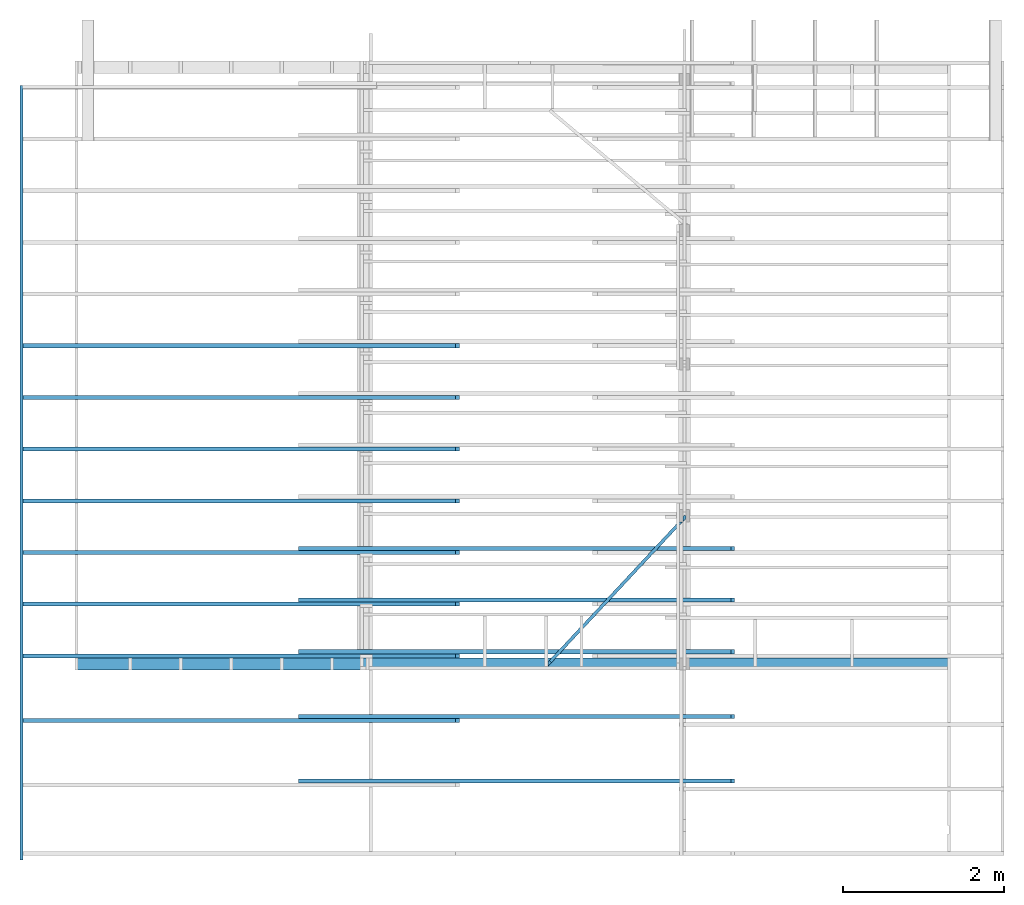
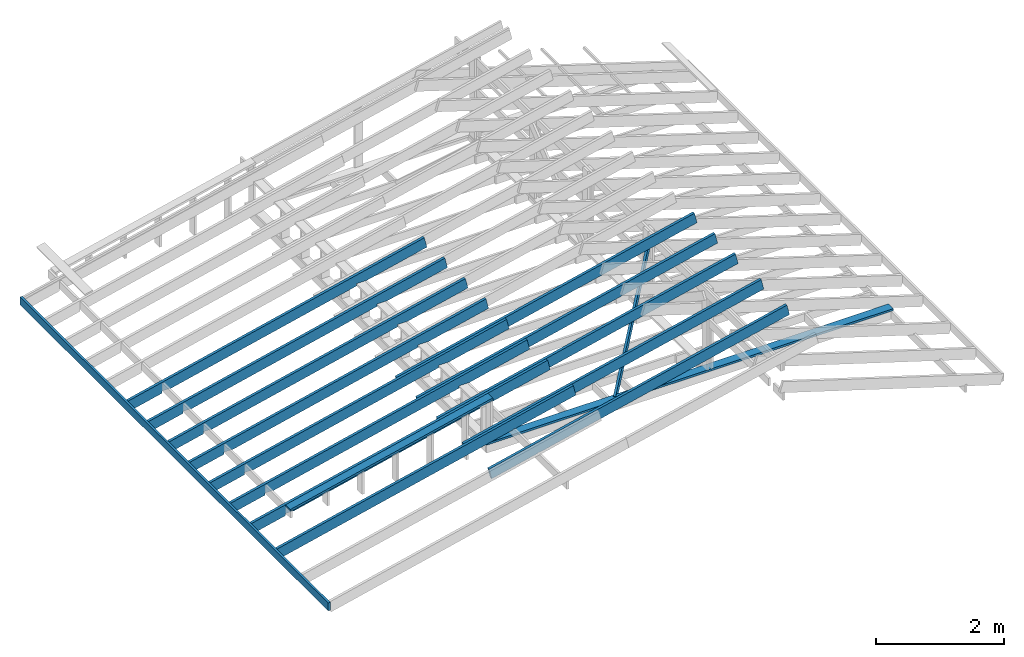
# One storey, part 2 of 6: 17 beams.
"""IFC4 building model written with IfcOpenShell, lengths in millimetres."""

from ifc_helpers import new_model, si_unit, derived_unit, frame, origin_with_axes, place, context, subcontext, project, spatial, polygons, source, transform, mapped, material, type_object, element, save


model = new_model("IFC4")

# Units and contexts
model_context = context("Model", 3, precision=1e-06, world=origin_with_axes())
body_context = subcontext(model_context, "Body", "Model", "MODEL_VIEW")
ifc_project = project(units=[si_unit("LENGTHUNIT", "METRE", prefix="MILLI"), si_unit("AREAUNIT", "SQUARE_METRE"), si_unit("VOLUMEUNIT", "CUBIC_METRE"), si_unit("MASSUNIT", "GRAM", prefix="KILO"), si_unit("ELECTRICVOLTAGEUNIT", "VOLT", prefix="KILO"), si_unit("THERMODYNAMICTEMPERATUREUNIT", "DEGREE_CELSIUS"), si_unit("PRESSUREUNIT", "PASCAL", prefix="MEGA"), si_unit("PLANEANGLEUNIT", "RADIAN"), derived_unit("THERMALCONDUCTANCEUNIT", [(si_unit("POWERUNIT", "WATT"), 1), (si_unit("LENGTHUNIT", "METRE"), -1), (si_unit("THERMODYNAMICTEMPERATUREUNIT", "KELVIN"), -1)]), derived_unit("MASSDENSITYUNIT", [(si_unit("MASSUNIT", "GRAM", prefix="KILO"), 1), (si_unit("VOLUMEUNIT", "CUBIC_METRE"), -1)])], contexts=[model_context])

# Site, building, storey
site_placement = place(None, origin_with_axes())
site = spatial("IfcSite", under=ifc_project, at=site_placement, CompositionType="ELEMENT")
building_placement = place(site_placement, origin_with_axes())
building = spatial("IfcBuilding", under=site, at=building_placement, CompositionType="ELEMENT")
storey_placement = place(building_placement, frame((0.0, 0.0, 2620.0), z_axis=(0.0, 0.0, 1.0), x_axis=(1.0, 0.0, 0.0)))
storey = spatial("IfcBuildingStorey", under=building, at=storey_placement, Name="Кровля", CompositionType="ELEMENT", Elevation=2620.0)

# Beams
ifc_material_1 = material(Name="Древесина конструктивная")
beam_type_1 = type_object("IfcBeamType", Name="Доска 40х150", PredefinedType="BEAM")
shared_shape_1 = source(origin_with_axes(), body_context, "Body", "Tessellation", [
    polygons([(4.121e-12, 38.405177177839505, -3997.5), (0.0, 40.0, -3997.499999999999), (0.0, 40.0, -4037.5), (4.121e-12, 38.405177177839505, -4037.5), (4.121e-12, 38.405177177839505, -4077.5), (0.0, 40.0, -4077.4999999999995), (0.0, 40.0, -7312.500000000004), (0.0, 0.0, -7312.500000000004), (0.0, 0.0, 0.0), (0.0, 40.0, 0.0), (0.0, 40.0, -3957.5), (4.121e-12, 38.405177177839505, -3957.5), (150.0, 40.0, -3997.5), (150.0, 40.0, -4037.5), (150.0, 40.0, -3957.5), (150.0, 40.0, 0.0), (150.0, 40.0, -4077.4999999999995), (150.0, 40.0, -7312.500000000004), (150.00000000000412, 38.405177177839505, -3997.5), (150.00000000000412, 38.405177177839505, -3957.5), (150.0, 0.0, 0.0), (150.0, 0.0, -7312.500000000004), (150.00000000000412, 38.405177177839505, -4077.5), (150.00000000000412, 38.405177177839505, -4037.5)], [[[1, 2, 3, 4, 5, 6, 7, 8, 9, 10, 11, 12]], [[2, 13, 14, 3]], [[15, 11, 10, 16]], [[6, 17, 18, 7]], [[13, 19, 20, 15, 16, 21, 22, 18, 17, 23, 24, 14]], [[24, 23, 5, 4]], [[23, 17, 6, 5]], [[14, 24, 4, 3]], [[20, 19, 1, 12]], [[15, 20, 12, 11]], [[19, 13, 2, 1]], [[8, 7, 18, 22]], [[21, 9, 8, 22]], [[9, 21, 16, 10]]], closed=True),
])
beam_1_placement = place(storey_placement, frame((3532.5, 149.99999999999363, 150.0), z_axis=(-1.0, 0.0, 0.0), x_axis=(0.0, -1.0, 0.0)))
element("IfcBeam", 1, at=beam_1_placement, inside=storey, type_object=beam_type_1, material=ifc_material_1, Name="Балка - Доска 40х150", context=body_context, shape_type="MappedRepresentation", body=[
    mapped(shared_shape_1, transform((0.0, 0.0, 0.0), x_axis=(1.0, 0.0, 0.0), y_axis=(0.0, 1.0, 0.0), z_axis=(0.0, 0.0, 1.0), scale=1.0)),
])
shared_shape_2 = source(origin_with_axes(), body_context, "Body", "Tessellation", [
    polygons([(-4.15e-12, -39.16629625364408, -3689.7578633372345), (-5e-15, -39.999999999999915, -3689.5637304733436), (-4e-15, -39.99999999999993, -3243.5802251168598), (-4.263e-12, -39.288554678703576, -3240.524922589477), (-4e-15, -39.99999999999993, -3240.3592583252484), (-2e-15, -39.99999999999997, -1347.5416834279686), (-4.69e-12, -32.85577650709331, -1316.8608096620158), (-2e-15, -39.99999999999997, -1315.1972348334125), (-1e-15, -39.999999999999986, -677.3141059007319), (-4.846e-12, -39.15236510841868, -673.6739371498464), (-1e-15, -39.999999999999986, -673.4765603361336), (0.0, -40.0, -31.755885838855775), (-4.093e-12, -31.81373772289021, -33.66210558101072), (0.0, -22.742192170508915, 5.295654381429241), (0.0, 0.0, 0.0), (0.0, 0.0, -3739.94809097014), (0.0, -40.000000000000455, -3739.94809097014), (-5e-15, -39.99999999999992, -3693.3382047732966), (150.0, -39.999999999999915, -3689.5637304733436), (149.99999999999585, -39.16629625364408, -3689.7578633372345), (150.0, -39.99999999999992, -3693.3382047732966), (150.0, -40.0, -3739.94809097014), (150.0, -4.55e-13, -3739.948090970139), (150.0, 0.0, 0.0), (150.0, -22.742192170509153, 5.295654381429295), (149.9999999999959, -31.81373772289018, -33.66210558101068), (150.0, -40.000000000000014, -31.75588583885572), (150.0, -39.99999999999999, -673.4765603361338), (149.99999999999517, -39.15236510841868, -673.6739371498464), (150.0, -39.99999999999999, -677.3141059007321), (150.0, -39.99999999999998, -1315.1972348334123), (149.9999999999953, -32.85577650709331, -1316.8608096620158), (150.0, -39.99999999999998, -1347.5416834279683), (150.0, -39.99999999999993, -3240.3592583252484), (149.99999999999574, -39.288554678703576, -3240.524922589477), (150.0, -39.99999999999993, -3243.5802251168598)], [[[1, 2, 3, 4, 5, 6, 7, 8, 9, 10, 11, 12, 13, 14, 15, 16, 17, 18]], [[19, 20, 21, 22, 23, 24, 25, 26, 27, 28, 29, 30, 31, 32, 33, 34, 35, 36]], [[2, 19, 36, 3]], [[21, 18, 17, 22]], [[27, 12, 11, 28]], [[30, 9, 8, 31]], [[33, 6, 5, 34]], [[14, 25, 24, 15]], [[3, 36, 35, 4]], [[34, 5, 4, 35]], [[6, 33, 32, 7]], [[31, 8, 7, 32]], [[9, 30, 29, 10]], [[28, 11, 10, 29]], [[25, 14, 13, 26]], [[12, 27, 26, 13]], [[18, 21, 20, 1]], [[19, 2, 1, 20]], [[16, 15, 24, 23]], [[17, 16, 23, 22]]], closed=True),
])
beam_2_placement = place(storey_placement, frame((-1.14e-13, 149.99999999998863, 165.35061583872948), z_axis=(-0.973943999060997, 0.0, -0.226788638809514), x_axis=(0.0, -1.0, 0.0)))
element("IfcBeam", 2, at=beam_2_placement, inside=storey, type_object=beam_type_1, material=ifc_material_1, Name="Балка - Доска 40х150", context=body_context, shape_type="MappedRepresentation", body=[
    mapped(shared_shape_2, transform((0.0, 0.0, 0.0), x_axis=(1.0, 0.0, 0.0), y_axis=(0.0, 1.0, 0.0), z_axis=(0.0, 0.0, 1.0), scale=1.0)),
])
ifc_material_2 = material(Name="Древесина оранж")
beam_type_2 = type_object("IfcBeamType", Name="Доска 50х200", PredefinedType="BEAM")
shared_shape_3 = source(origin_with_axes(), body_context, "Body", "Tessellation", [
    polygons([(50.00000000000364, 43.0898413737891, -707.6329538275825), (50.0, 2.06e-13, -892.682313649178), (50.0, 4.55e-13, -5499.999999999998), (50.0, 200.00000000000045, -5500.000000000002), (50.0, 200.00000000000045, 0.0), (50.0, 0.0, 0.0), (50.0, 2.08e-13, -716.3066353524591), (50.00000000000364, 4.132081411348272, -698.5614082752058), (-2e-15, -1.9e-14, -892.6823136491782), (3.638e-12, 43.0898413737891, -707.6329538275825), (3.638e-12, 4.132081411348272, -698.5614082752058), (-2e-15, -1.6e-14, -716.3066353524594), (0.0, 0.0, 0.0), (0.0, 200.00000000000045, 0.0), (0.0, 200.0000000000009, -5499.999999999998), (0.0, 0.0, -5500.0)], [[[1, 2, 3, 4, 5, 6, 7, 8]], [[9, 10, 11, 12, 13, 14, 15, 16]], [[2, 9, 16, 3]], [[12, 7, 6, 13]], [[11, 10, 1, 8]], [[7, 12, 11, 8]], [[9, 2, 1, 10]], [[3, 16, 15, 4]], [[14, 5, 4, 15]], [[6, 5, 14, 13]]], closed=True),
])
beam_3_placement = place(storey_placement, frame((2813.077417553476, 249.9999999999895, 615.0417672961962), z_axis=(-0.973943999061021, 0.0, -0.226788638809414), x_axis=(-0.226788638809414, 0.0, 0.973943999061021)))
element("IfcBeam", 3, at=beam_3_placement, inside=storey, type_object=beam_type_2, material=ifc_material_2, Name="Балка - Доска 50х200", context=body_context, shape_type="MappedRepresentation", body=[
    mapped(shared_shape_3, transform((0.0, 0.0, 0.0), x_axis=(0.0, -1.0, 0.0), y_axis=(1.0, 0.0, 0.0), z_axis=(0.0, 0.0, 1.0), scale=1.0)),
])
shared_shape_4 = source(origin_with_axes(), body_context, "Body", "Tessellation", [
    polygons([(0.0, -2.76e-13, -611.6640995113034), (-5.7e-14, 38.957759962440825, -620.7356450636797), (-5.7e-14, 4.939464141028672, -766.8272449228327), (0.0, -2.84e-13, -765.6770613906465), (0.0, -4.61e-13, -4216.306635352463), (-1.0914e-11, 4.132081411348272, -4198.561408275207), (-1.0914e-11, 43.0898413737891, -4207.632953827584), (0.0, -4.71e-13, -4392.682313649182), (0.0, -1.364e-12, -5500.000000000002), (0.0, 199.99999999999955, -5500.000000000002), (0.0, 199.99999999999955, 0.0), (0.0, 0.0, 0.0), (-50.000000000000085, 38.957759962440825, -620.7356450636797), (-50.0, -4.7e-14, -611.6640995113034), (-50.0, 0.0, 0.0), (-50.0, 199.99999999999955, 0.0), (-50.0, 199.9999999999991, -5500.000000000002), (-50.0, -4.55e-13, -5500.000000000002), (-50.0, -3.35e-13, -4392.682313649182), (-49.99999999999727, 43.0898413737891, -4207.632953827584), (-49.99999999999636, 4.132081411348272, -4198.561408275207), (-50.0, -3.21e-13, -4216.306635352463), (-50.0, -5.8e-14, -765.6770613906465), (-50.000000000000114, 4.939464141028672, -766.8272449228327)], [[[1, 2, 3, 4, 5, 6, 7, 8, 9, 10, 11, 12]], [[13, 14, 15, 16, 17, 18, 19, 20, 21, 22, 23, 24]], [[14, 1, 12, 15]], [[4, 23, 22, 5]], [[8, 19, 18, 9]], [[21, 20, 7, 6]], [[5, 22, 21, 6]], [[19, 8, 7, 20]], [[23, 4, 3, 24]], [[13, 24, 3, 2]], [[1, 14, 13, 2]], [[9, 18, 17, 10]], [[16, 11, 10, 17]], [[12, 11, 16, 15]]], closed=True),
])
beam_4_placement = place(storey_placement, frame((-595.7265791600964, 149.9999999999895, -178.7184685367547), z_axis=(-0.973943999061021, 0.0, -0.226788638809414), x_axis=(-0.226788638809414, 0.0, 0.973943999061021)))
element("IfcBeam", 4, at=beam_4_placement, inside=storey, type_object=beam_type_2, material=ifc_material_2, Name="Балка - Доска 50х200", context=body_context, shape_type="MappedRepresentation", body=[
    mapped(shared_shape_4, transform((0.0, 0.0, 0.0), x_axis=(0.0, -1.0, 0.0), y_axis=(1.0, 0.0, 0.0), z_axis=(0.0, 0.0, 1.0), scale=1.0)),
])
ifc_material_3 = material(Name="Древесина жел")
shared_shape_5 = source(origin_with_axes(), body_context, "Body", "Tessellation", [
    polygons([(39.99999999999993, -85.95135620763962, -8.8e-13), (4e-15, -5.45e-13, -6.8e-13), (2.6e-14, -117.52639279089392, -9.21e-13), (15.112551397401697, -150.0000000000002, -5.14e-13), (39.99999999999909, -150.00000000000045, 0.0), (-3.37e-13, -3.45e-13, -2832.285832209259), (39.9999999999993, -85.9513562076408, -2832.2858322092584), (39.99999999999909, -150.00000000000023, -2832.285832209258), (0.0, -150.00000000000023, -2832.2858322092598), (40.00000000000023, -56.44419671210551, -2734.2692071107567), (40.0, -21.780886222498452, -2714.3078718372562), (39.99999999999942, -2.4e-14, -2752.1308737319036), (39.99999999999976, -5.06e-13, -18.18291105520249), (39.99999999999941, -150.0000000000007, -104.56243593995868), (39.99999999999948, -21.404837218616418, -2795.1158479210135), (39.99999999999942, -150.0000000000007, -36.88327613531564), (-2.68e-13, 3.82e-13, -2752.130873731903), (29.2534652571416, 2.27e-13, -31.480739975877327), (-4.55e-13, -40.39606660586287, -2681.9821897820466), (-4.55e-13, -75.05937709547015, -2701.943525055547), (-1.54e-13, -150.00000000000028, -86.37952488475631), (-2.11e-13, -150.00000000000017, -18.7003650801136), (29.2534652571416, -150.00000000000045, -117.86026486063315)], [[[1, 2, 3, 4, 5]], [[6, 7, 8, 9]], [[10, 11, 12, 13, 14, 8, 7, 15]], [[16, 1, 5]], [[12, 17, 2, 18, 13]], [[19, 20, 6, 9, 21, 22, 3, 2, 17]], [[21, 16, 5, 4, 22]], [[14, 23, 21, 9, 8]], [[22, 4, 3]], [[21, 23, 18, 2]], [[23, 14, 13, 18]], [[16, 21, 2, 1]], [[19, 17, 12, 11]], [[15, 7, 6]], [[6, 20, 10, 15]], [[20, 19, 11, 10]]], closed=True),
])
beam_5_placement = place(storey_placement, frame((7530.0, 1834.9999999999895, 1563.4051771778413), z_axis=(0.591023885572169, 0.633763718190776, 0.499033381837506), x_axis=(-0.340349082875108, -0.364961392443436, 0.866582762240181)))
element("IfcBeam", 5, at=beam_5_placement, inside=storey, type_object=beam_type_1, material=ifc_material_3, Name="Балка - Доска 40х150", context=body_context, shape_type="MappedRepresentation", body=[
    mapped(shared_shape_5, transform((0.0, 0.0, 0.0), x_axis=(0.0, -1.0, 0.0), y_axis=(1.0, 0.0, 0.0), z_axis=(0.0, 0.0, 1.0), scale=1.0)),
])
shared_shape_6 = source(origin_with_axes(), body_context, "Body", "Tessellation", [
    polygons([(50.00000000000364, 43.089841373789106, -707.6329538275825), (50.0, 2.06e-13, -892.682313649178), (50.0, 4.55e-13, -5499.999999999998), (50.0, 200.00000000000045, -5500.000000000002), (50.0, 200.00000000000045, 0.0), (50.0, 0.0, 0.0), (50.0, 2.08e-13, -716.3066353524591), (50.00000000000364, 4.132081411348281, -698.5614082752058), (-2e-15, -1.9e-14, -892.6823136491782), (3.638e-12, 43.089841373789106, -707.6329538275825), (4.547e-12, 4.132081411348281, -698.5614082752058), (-2e-15, -1.6e-14, -716.3066353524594), (0.0, 0.0, 0.0), (0.0, 200.00000000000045, 0.0), (0.0, 200.0000000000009, -5499.999999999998), (0.0, 0.0, -5500.0)], [[[1, 2, 3, 4, 5, 6, 7, 8]], [[9, 10, 11, 12, 13, 14, 15, 16]], [[2, 9, 16, 3]], [[12, 7, 6, 13]], [[11, 10, 1, 8]], [[7, 12, 11, 8]], [[9, 2, 1, 10]], [[3, 16, 15, 4]], [[14, 5, 4, 15]], [[6, 5, 14, 13]]], closed=True),
])
beam_6_placement = place(storey_placement, frame((2813.077417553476, 889.9999999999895, 615.0417672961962), z_axis=(-0.973943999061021, 0.0, -0.226788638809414), x_axis=(-0.226788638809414, 0.0, 0.973943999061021)))
element("IfcBeam", 6, at=beam_6_placement, inside=storey, type_object=beam_type_2, material=ifc_material_2, Name="Балка - Доска 50х200", context=body_context, shape_type="MappedRepresentation", body=[
    mapped(shared_shape_6, transform((0.0, 0.0, 0.0), x_axis=(0.0, -1.0, 0.0), y_axis=(1.0, 0.0, 0.0), z_axis=(0.0, 0.0, 1.0), scale=1.0)),
])
shared_shape_7 = source(origin_with_axes(), body_context, "Body", "Tessellation", [
    polygons([(0.0, -2.76e-13, -611.6640995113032), (-4.55e-13, 38.957759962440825, -620.7356450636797), (-4.55e-13, 4.939464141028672, -766.8272449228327), (0.0, -2.84e-13, -765.6770613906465), (0.0, -4.61e-13, -4216.306635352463), (3.638e-12, 4.132081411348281, -4198.561408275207), (3.638e-12, 43.089841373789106, -4207.632953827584), (0.0, -4.71e-13, -4392.682313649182), (0.0, -1.364e-12, -5500.000000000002), (0.0, 199.99999999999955, -5500.000000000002), (0.0, 199.99999999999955, 0.0), (0.0, 0.0, 0.0), (-50.000000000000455, 38.957759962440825, -620.7356450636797), (-50.0, -4.7e-14, -611.6640995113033), (-50.0, 0.0, 0.0), (-50.0, 199.99999999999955, 0.0), (-50.0, 199.9999999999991, -5500.000000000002), (-50.0, -4.55e-13, -5500.000000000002), (-50.0, -3.35e-13, -4392.682313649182), (-49.99999999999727, 43.089841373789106, -4207.632953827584), (-49.99999999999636, 4.132081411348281, -4198.561408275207), (-50.0, -3.21e-13, -4216.306635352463), (-50.0, -5.8e-14, -765.6770613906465), (-50.000000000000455, 4.939464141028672, -766.8272449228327)], [[[1, 2, 3, 4, 5, 6, 7, 8, 9, 10, 11, 12]], [[13, 14, 15, 16, 17, 18, 19, 20, 21, 22, 23, 24]], [[14, 1, 12, 15]], [[4, 23, 22, 5]], [[8, 19, 18, 9]], [[21, 20, 7, 6]], [[5, 22, 21, 6]], [[19, 8, 7, 20]], [[23, 4, 3, 24]], [[13, 24, 3, 2]], [[1, 14, 13, 2]], [[9, 18, 17, 10]], [[16, 11, 10, 17]], [[12, 11, 16, 15]]], closed=True),
])
beam_7_placement = place(storey_placement, frame((-595.7265791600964, 789.9999999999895, -178.7184685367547), z_axis=(-0.973943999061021, 0.0, -0.226788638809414), x_axis=(-0.226788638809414, 0.0, 0.973943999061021)))
element("IfcBeam", 7, at=beam_7_placement, inside=storey, type_object=beam_type_2, material=ifc_material_2, Name="Балка - Доска 50х200", context=body_context, shape_type="MappedRepresentation", body=[
    mapped(shared_shape_7, transform((0.0, 0.0, 0.0), x_axis=(0.0, -1.0, 0.0), y_axis=(1.0, 0.0, 0.0), z_axis=(0.0, 0.0, 1.0), scale=1.0)),
])
shared_shape_8 = source(origin_with_axes(), body_context, "Body", "Tessellation", [
    polygons([(50.00000000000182, 43.089841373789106, -707.6329538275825), (50.0, 2.06e-13, -892.682313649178), (50.0, 4.55e-13, -5499.999999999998), (50.0, 200.00000000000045, -5500.000000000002), (50.0, 200.00000000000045, 0.0), (50.0, 0.0, 0.0), (50.0, 2.08e-13, -716.3066353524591), (50.00000000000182, 4.132081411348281, -698.5614082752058), (-2e-15, -1.9e-14, -892.6823136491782), (1.819e-12, 43.089841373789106, -707.6329538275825), (2.728e-12, 4.132081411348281, -698.5614082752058), (-2e-15, -1.6e-14, -716.3066353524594), (0.0, 0.0, 0.0), (0.0, 200.00000000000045, 0.0), (0.0, 200.0000000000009, -5499.999999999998), (0.0, 0.0, -5500.0)], [[[1, 2, 3, 4, 5, 6, 7, 8]], [[9, 10, 11, 12, 13, 14, 15, 16]], [[2, 9, 16, 3]], [[12, 7, 6, 13]], [[11, 10, 1, 8]], [[7, 12, 11, 8]], [[9, 2, 1, 10]], [[3, 16, 15, 4]], [[14, 5, 4, 15]], [[6, 5, 14, 13]]], closed=True),
])
beam_8_placement = place(storey_placement, frame((2813.077417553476, 1529.9999999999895, 615.0417672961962), z_axis=(-0.973943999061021, 0.0, -0.226788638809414), x_axis=(-0.226788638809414, 0.0, 0.973943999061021)))
element("IfcBeam", 8, at=beam_8_placement, inside=storey, type_object=beam_type_2, material=ifc_material_2, Name="Балка - Доска 50х200", context=body_context, shape_type="MappedRepresentation", body=[
    mapped(shared_shape_8, transform((0.0, 0.0, 0.0), x_axis=(0.0, -1.0, 0.0), y_axis=(1.0, 0.0, 0.0), z_axis=(0.0, 0.0, 1.0), scale=1.0)),
])
shared_shape_9 = source(origin_with_axes(), body_context, "Body", "Tessellation", [
    polygons([(0.0, -2.76e-13, -611.6640995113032), (-4.55e-13, 38.957759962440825, -620.7356450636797), (-4.55e-13, 4.939464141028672, -766.8272449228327), (0.0, -2.84e-13, -765.6770613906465), (0.0, -4.61e-13, -4216.306635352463), (1.819e-12, 4.132081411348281, -4198.561408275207), (1.819e-12, 43.089841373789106, -4207.632953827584), (0.0, -4.71e-13, -4392.682313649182), (0.0, -1.364e-12, -5500.000000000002), (0.0, 199.99999999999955, -5500.000000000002), (0.0, 199.99999999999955, 0.0), (0.0, 0.0, 0.0), (-50.000000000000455, 38.957759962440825, -620.7356450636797), (-50.0, -4.7e-14, -611.6640995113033), (-50.0, 0.0, 0.0), (-50.0, 199.99999999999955, 0.0), (-50.0, 199.9999999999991, -5500.000000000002), (-50.0, -4.55e-13, -5500.000000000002), (-50.0, -3.35e-13, -4392.682313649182), (-49.99999999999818, 43.089841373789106, -4207.632953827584), (-49.99999999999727, 4.132081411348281, -4198.561408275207), (-50.0, -3.21e-13, -4216.306635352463), (-50.0, -5.8e-14, -765.6770613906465), (-50.000000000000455, 4.939464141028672, -766.8272449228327)], [[[1, 2, 3, 4, 5, 6, 7, 8, 9, 10, 11, 12]], [[13, 14, 15, 16, 17, 18, 19, 20, 21, 22, 23, 24]], [[14, 1, 12, 15]], [[4, 23, 22, 5]], [[8, 19, 18, 9]], [[21, 20, 7, 6]], [[5, 22, 21, 6]], [[19, 8, 7, 20]], [[23, 4, 3, 24]], [[13, 24, 3, 2]], [[1, 14, 13, 2]], [[9, 18, 17, 10]], [[16, 11, 10, 17]], [[12, 11, 16, 15]]], closed=True),
])
beam_9_placement = place(storey_placement, frame((-595.7265791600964, 1429.9999999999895, -178.7184685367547), z_axis=(-0.973943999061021, 0.0, -0.226788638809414), x_axis=(-0.226788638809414, 0.0, 0.973943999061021)))
element("IfcBeam", 9, at=beam_9_placement, inside=storey, type_object=beam_type_2, material=ifc_material_2, Name="Балка - Доска 50х200", context=body_context, shape_type="MappedRepresentation", body=[
    mapped(shared_shape_9, transform((0.0, 0.0, 0.0), x_axis=(0.0, -1.0, 0.0), y_axis=(1.0, 0.0, 0.0), z_axis=(0.0, 0.0, 1.0), scale=1.0)),
])
shared_shape_10 = source(origin_with_axes(), body_context, "Body", "Tessellation", [
    polygons([(0.0, -2.76e-13, -611.6640995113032), (-9.09e-13, 38.957759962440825, -620.7356450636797), (-9.09e-13, 4.939464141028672, -766.8272449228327), (0.0, -2.84e-13, -765.6770613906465), (0.0, -4.61e-13, -4216.306635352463), (9.09e-13, 4.132081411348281, -4198.561408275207), (1.819e-12, 43.089841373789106, -4207.632953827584), (0.0, -4.71e-13, -4392.682313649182), (0.0, -1.364e-12, -5500.000000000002), (0.0, 199.99999999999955, -5500.000000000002), (0.0, 199.99999999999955, 0.0), (0.0, 0.0, 0.0), (-50.000000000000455, 38.957759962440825, -620.7356450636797), (-50.0, -4.7e-14, -611.6640995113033), (-50.0, 0.0, 0.0), (-50.0, 199.99999999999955, 0.0), (-50.0, 199.9999999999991, -5500.000000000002), (-50.0, -4.55e-13, -5500.000000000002), (-50.0, -3.35e-13, -4392.682313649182), (-49.99999999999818, 43.089841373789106, -4207.632953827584), (-49.99999999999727, 4.132081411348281, -4198.561408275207), (-50.0, -3.21e-13, -4216.306635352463), (-50.0, -5.8e-14, -765.6770613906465), (-50.00000000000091, 4.939464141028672, -766.8272449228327)], [[[1, 2, 3, 4, 5, 6, 7, 8, 9, 10, 11, 12]], [[13, 14, 15, 16, 17, 18, 19, 20, 21, 22, 23, 24]], [[14, 1, 12, 15]], [[4, 23, 22, 5]], [[8, 19, 18, 9]], [[21, 20, 7, 6]], [[5, 22, 21, 6]], [[19, 8, 7, 20]], [[23, 4, 3, 24]], [[13, 24, 3, 2]], [[1, 14, 13, 2]], [[9, 18, 17, 10]], [[16, 11, 10, 17]], [[12, 11, 16, 15]]], closed=True),
])
beam_10_placement = place(storey_placement, frame((-595.7265791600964, 2069.9999999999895, -178.7184685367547), z_axis=(-0.973943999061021, 0.0, -0.226788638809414), x_axis=(-0.226788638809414, 0.0, 0.973943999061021)))
element("IfcBeam", 10, at=beam_10_placement, inside=storey, type_object=beam_type_2, material=ifc_material_2, Name="Балка - Доска 50х200", context=body_context, shape_type="MappedRepresentation", body=[
    mapped(shared_shape_10, transform((0.0, 0.0, 0.0), x_axis=(0.0, -1.0, 0.0), y_axis=(1.0, 0.0, 0.0), z_axis=(0.0, 0.0, 1.0), scale=1.0)),
])
shared_shape_11 = source(origin_with_axes(), body_context, "Body", "Tessellation", [
    polygons([(0.0, -2.76e-13, -611.6640995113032), (-9.09e-13, 38.957759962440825, -620.7356450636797), (-9.09e-13, 4.939464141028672, -766.8272449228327), (0.0, -2.84e-13, -765.6770613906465), (0.0, -4.61e-13, -4216.306635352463), (1.819e-12, 4.132081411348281, -4198.561408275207), (2.728e-12, 43.089841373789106, -4207.632953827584), (0.0, -4.71e-13, -4392.682313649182), (0.0, -1.364e-12, -5500.000000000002), (0.0, 199.99999999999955, -5500.000000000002), (0.0, 199.99999999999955, 0.0), (0.0, 0.0, 0.0), (-50.000000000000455, 38.957759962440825, -620.7356450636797), (-50.0, -4.7e-14, -611.6640995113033), (-50.0, 0.0, 0.0), (-50.0, 199.99999999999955, 0.0), (-50.0, 199.9999999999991, -5500.000000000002), (-50.0, -4.55e-13, -5500.000000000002), (-50.0, -3.35e-13, -4392.682313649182), (-49.99999999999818, 43.089841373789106, -4207.632953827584), (-49.99999999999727, 4.132081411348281, -4198.561408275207), (-50.0, -3.21e-13, -4216.306635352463), (-50.0, -5.8e-14, -765.6770613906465), (-50.00000000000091, 4.939464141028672, -766.8272449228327)], [[[1, 2, 3, 4, 5, 6, 7, 8, 9, 10, 11, 12]], [[13, 14, 15, 16, 17, 18, 19, 20, 21, 22, 23, 24]], [[14, 1, 12, 15]], [[4, 23, 22, 5]], [[8, 19, 18, 9]], [[21, 20, 7, 6]], [[5, 22, 21, 6]], [[19, 8, 7, 20]], [[23, 4, 3, 24]], [[13, 24, 3, 2]], [[1, 14, 13, 2]], [[9, 18, 17, 10]], [[16, 11, 10, 17]], [[12, 11, 16, 15]]], closed=True),
])
beam_11_placement = place(storey_placement, frame((-595.7265791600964, 2709.9999999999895, -178.7184685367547), z_axis=(-0.973943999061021, 0.0, -0.226788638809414), x_axis=(-0.226788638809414, 0.0, 0.973943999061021)))
element("IfcBeam", 11, at=beam_11_placement, inside=storey, type_object=beam_type_2, material=ifc_material_2, Name="Балка - Доска 50х200", context=body_context, shape_type="MappedRepresentation", body=[
    mapped(shared_shape_11, transform((0.0, 0.0, 0.0), x_axis=(0.0, -1.0, 0.0), y_axis=(1.0, 0.0, 0.0), z_axis=(0.0, 0.0, 1.0), scale=1.0)),
])
shared_shape_12 = source(origin_with_axes(), body_context, "Body", "Tessellation", [
    polygons([(0.0, -2.76e-13, -611.6640995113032), (-1.819e-12, 38.957759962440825, -620.7356450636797), (-1.364e-12, 4.939464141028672, -766.8272449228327), (0.0, -2.84e-13, -765.6770613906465), (0.0, -4.61e-13, -4216.306635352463), (1.819e-12, 4.132081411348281, -4198.561408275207), (1.819e-12, 43.089841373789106, -4207.632953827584), (0.0, -4.71e-13, -4392.682313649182), (0.0, -1.364e-12, -5500.000000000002), (0.0, 199.99999999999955, -5500.000000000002), (0.0, 199.99999999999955, 0.0), (0.0, 0.0, 0.0), (-50.000000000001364, 38.957759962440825, -620.7356450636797), (-50.0, -4.7e-14, -611.6640995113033), (-50.0, 0.0, 0.0), (-50.0, 199.99999999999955, 0.0), (-50.0, 199.9999999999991, -5500.000000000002), (-50.0, -4.55e-13, -5500.000000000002), (-50.0, -3.35e-13, -4392.682313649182), (-49.99999999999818, 43.089841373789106, -4207.632953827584), (-49.99999999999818, 4.132081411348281, -4198.561408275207), (-50.0, -3.21e-13, -4216.306635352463), (-50.0, -5.8e-14, -765.6770613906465), (-50.000000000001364, 4.939464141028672, -766.8272449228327)], [[[1, 2, 3, 4, 5, 6, 7, 8, 9, 10, 11, 12]], [[13, 14, 15, 16, 17, 18, 19, 20, 21, 22, 23, 24]], [[14, 1, 12, 15]], [[4, 23, 22, 5]], [[8, 19, 18, 9]], [[21, 20, 7, 6]], [[5, 22, 21, 6]], [[19, 8, 7, 20]], [[23, 4, 3, 24]], [[13, 24, 3, 2]], [[1, 14, 13, 2]], [[9, 18, 17, 10]], [[16, 11, 10, 17]], [[12, 11, 16, 15]]], closed=True),
])
beam_12_placement = place(storey_placement, frame((-595.7265791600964, 3349.9999999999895, -178.7184685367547), z_axis=(-0.973943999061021, 0.0, -0.226788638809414), x_axis=(-0.226788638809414, 0.0, 0.973943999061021)))
element("IfcBeam", 12, at=beam_12_placement, inside=storey, type_object=beam_type_2, material=ifc_material_2, Name="Балка - Доска 50х200", context=body_context, shape_type="MappedRepresentation", body=[
    mapped(shared_shape_12, transform((0.0, 0.0, 0.0), x_axis=(0.0, -1.0, 0.0), y_axis=(1.0, 0.0, 0.0), z_axis=(0.0, 0.0, 1.0), scale=1.0)),
])
shared_shape_13 = source(origin_with_axes(), body_context, "Body", "Tessellation", [
    polygons([(0.0, -2.76e-13, -611.6640995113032), (-2.274e-12, 38.957759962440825, -620.7356450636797), (-2.274e-12, 4.939464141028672, -766.8272449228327), (0.0, -2.84e-13, -765.6770613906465), (0.0, -4.61e-13, -4216.306635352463), (1.819e-12, 4.132081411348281, -4198.561408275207), (1.819e-12, 43.089841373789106, -4207.632953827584), (0.0, -4.71e-13, -4392.682313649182), (0.0, -1.364e-12, -5500.000000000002), (0.0, 199.99999999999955, -5500.000000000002), (0.0, 199.99999999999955, 0.0), (0.0, 0.0, 0.0), (-50.000000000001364, 38.957759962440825, -620.7356450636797), (-50.0, -4.7e-14, -611.6640995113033), (-50.0, 0.0, 0.0), (-50.0, 199.99999999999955, 0.0), (-50.0, 199.9999999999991, -5500.000000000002), (-50.0, -4.55e-13, -5500.000000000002), (-50.0, -3.35e-13, -4392.682313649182), (-49.99999999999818, 43.089841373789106, -4207.632953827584), (-49.99999999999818, 4.132081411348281, -4198.561408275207), (-50.0, -3.21e-13, -4216.306635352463), (-50.0, -5.8e-14, -765.6770613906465), (-50.000000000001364, 4.939464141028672, -766.8272449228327)], [[[1, 2, 3, 4, 5, 6, 7, 8, 9, 10, 11, 12]], [[13, 14, 15, 16, 17, 18, 19, 20, 21, 22, 23, 24]], [[14, 1, 12, 15]], [[4, 23, 22, 5]], [[8, 19, 18, 9]], [[21, 20, 7, 6]], [[5, 22, 21, 6]], [[19, 8, 7, 20]], [[23, 4, 3, 24]], [[13, 24, 3, 2]], [[1, 14, 13, 2]], [[9, 18, 17, 10]], [[16, 11, 10, 17]], [[12, 11, 16, 15]]], closed=True),
])
beam_13_placement = place(storey_placement, frame((-595.7265791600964, 3989.9999999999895, -178.7184685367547), z_axis=(-0.973943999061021, 0.0, -0.226788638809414), x_axis=(-0.226788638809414, 0.0, 0.973943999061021)))
element("IfcBeam", 13, at=beam_13_placement, inside=storey, type_object=beam_type_2, material=ifc_material_2, Name="Балка - Доска 50х200", context=body_context, shape_type="MappedRepresentation", body=[
    mapped(shared_shape_13, transform((0.0, 0.0, 0.0), x_axis=(0.0, -1.0, 0.0), y_axis=(1.0, 0.0, 0.0), z_axis=(0.0, 0.0, 1.0), scale=1.0)),
])
shared_shape_14 = source(origin_with_axes(), body_context, "Body", "Tessellation", [
    polygons([(50.0, 2.1e-13, -851.6121904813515), (49.99999999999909, 9.071545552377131, -853.7245536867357), (50.0, 2.06e-13, -892.6823136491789), (50.0, 1.91e-13, -4802.044662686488), (49.99999999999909, 9.07154555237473, -4804.15702589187), (50.0, 2.01e-13, -4843.114785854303), (50.0, 4.55e-13, -5499.999999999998), (50.0, 200.00000000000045, -5500.000000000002), (50.0, 200.00000000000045, 0.0), (50.0, 0.0, 0.0), (-9.09e-13, 9.071545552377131, -853.7245536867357), (1e-15, -1.9e-14, -851.6121904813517), (0.0, 0.0, 0.0), (0.0, 200.00000000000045, 0.0), (0.0, 200.0000000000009, -5499.999999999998), (0.0, 0.0, -5500.0), (-2e-15, -1.05e-13, -4843.114785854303), (-1.137e-12, 9.07154555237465, -4804.15702589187), (-2e-15, -1.05e-13, -4802.044662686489), (1e-15, -1.9e-14, -892.6823136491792)], [[[1, 2, 3, 4, 5, 6, 7, 8, 9, 10]], [[11, 12, 13, 14, 15, 16, 17, 18, 19, 20]], [[12, 1, 10, 13]], [[3, 20, 19, 4]], [[6, 17, 16, 7]], [[17, 6, 5, 18]], [[4, 19, 18, 5]], [[20, 3, 2, 11]], [[1, 12, 11, 2]], [[7, 16, 15, 8]], [[14, 9, 8, 15]], [[10, 9, 14, 13]]], closed=True),
])
beam_14_placement = place(storey_placement, frame((2813.077417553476, -550.0000000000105, 615.0417672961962), z_axis=(-0.973943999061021, 0.0, -0.226788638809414), x_axis=(-0.226788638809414, 0.0, 0.973943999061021)))
element("IfcBeam", 14, at=beam_14_placement, inside=storey, type_object=beam_type_2, material=ifc_material_2, Name="Балка - Доска 50х200", context=body_context, shape_type="MappedRepresentation", body=[
    mapped(shared_shape_14, transform((0.0, 0.0, 0.0), x_axis=(0.0, -1.0, 0.0), y_axis=(1.0, 0.0, 0.0), z_axis=(0.0, 0.0, 1.0), scale=1.0)),
])
shared_shape_15 = source(origin_with_axes(), body_context, "Body", "Tessellation", [
    polygons([(0.0, -4.69e-13, -4351.6121904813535), (-9.09e-13, 9.071545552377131, -4353.724553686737), (0.0, -4.71e-13, -4392.682313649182), (0.0, -1.364e-12, -5500.000000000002), (0.0, 199.99999999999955, -5500.000000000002), (0.0, 199.99999999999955, 0.0), (0.0, 0.0, 0.0), (-50.00000000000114, 9.071545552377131, -4353.724553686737), (-50.0, -3.31e-13, -4351.612190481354), (-50.0, 0.0, 0.0), (-50.0, 199.99999999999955, 0.0), (-50.0, 199.9999999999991, -5500.000000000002), (-50.0, -4.55e-13, -5500.000000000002), (-50.0, -3.35e-13, -4392.682313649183)], [[[1, 2, 3, 4, 5, 6, 7]], [[8, 9, 10, 11, 12, 13, 14]], [[9, 1, 7, 10]], [[3, 14, 13, 4]], [[14, 3, 2, 8]], [[1, 9, 8, 2]], [[4, 13, 12, 5]], [[11, 6, 5, 12]], [[7, 6, 11, 10]]], closed=True),
])
beam_15_placement = place(storey_placement, frame((-595.7265791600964, -650.0000000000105, -178.7184685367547), z_axis=(-0.973943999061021, 0.0, -0.226788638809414), x_axis=(-0.226788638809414, 0.0, 0.973943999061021)))
element("IfcBeam", 15, at=beam_15_placement, inside=storey, type_object=beam_type_2, material=ifc_material_2, Name="Балка - Доска 50х200", context=body_context, shape_type="MappedRepresentation", body=[
    mapped(shared_shape_15, transform((0.0, 0.0, 0.0), x_axis=(0.0, -1.0, 0.0), y_axis=(1.0, 0.0, 0.0), z_axis=(0.0, 0.0, 1.0), scale=1.0)),
])
shared_shape_16 = source(origin_with_axes(), body_context, "Body", "Tessellation", [
    polygons([(50.0, 2.1e-13, -851.6121904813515), (49.99999999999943, 9.071545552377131, -853.7245536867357), (50.0, 2.06e-13, -892.6823136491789), (50.0, 1.91e-13, -4802.044662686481), (49.99999999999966, 9.071545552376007, -4804.157025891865), (50.0, 1.87e-13, -4843.114785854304), (50.0, 4.55e-13, -5499.999999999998), (50.0, 200.00000000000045, -5500.000000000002), (50.0, 200.00000000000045, 0.0), (50.0, 0.0, 0.0), (-5.68e-13, 9.071545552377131, -853.7245536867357), (1e-15, -1.9e-14, -851.6121904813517), (0.0, 0.0, 0.0), (0.0, 200.00000000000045, 0.0), (0.0, 200.0000000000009, -5499.999999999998), (0.0, 0.0, -5500.0), (2e-15, -1.05e-13, -4843.1147858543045), (-4.55e-13, 9.071545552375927, -4804.157025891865), (2e-15, -1.05e-13, -4802.044662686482), (1e-15, -1.9e-14, -892.6823136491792)], [[[1, 2, 3, 4, 5, 6, 7, 8, 9, 10]], [[11, 12, 13, 14, 15, 16, 17, 18, 19, 20]], [[12, 1, 10, 13]], [[3, 20, 19, 4]], [[6, 17, 16, 7]], [[17, 6, 5, 18]], [[4, 19, 18, 5]], [[20, 3, 2, 11]], [[1, 12, 11, 2]], [[7, 16, 15, 8]], [[14, 9, 8, 15]], [[10, 9, 14, 13]]], closed=True),
])
beam_16_placement = place(storey_placement, frame((2813.077417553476, -1350.0000000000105, 615.0417672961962), z_axis=(-0.973943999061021, 0.0, -0.226788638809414), x_axis=(-0.226788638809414, 0.0, 0.973943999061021)))
element("IfcBeam", 16, at=beam_16_placement, inside=storey, type_object=beam_type_2, material=ifc_material_2, Name="Балка - Доска 50х200", context=body_context, shape_type="MappedRepresentation", body=[
    mapped(shared_shape_16, transform((0.0, 0.0, 0.0), x_axis=(0.0, -1.0, 0.0), y_axis=(1.0, 0.0, 0.0), z_axis=(0.0, 0.0, 1.0), scale=1.0)),
])
shared_shape_17 = source(origin_with_axes(), body_context, "Body", "Tessellation", [
    polygons([(-1.202e-12, -41.06858871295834, -9556.099830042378), (3e-15, 0.0, -9556.100499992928), (0.0, 0.0, 0.0), (1.14e-13, -149.99999999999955, 4.55e-13), (0.0, -150.0, -9596.100499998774), (3.337e-12, -7.14e-13, -9596.100499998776), (2.728e-12, -41.070123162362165, -9596.099830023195), (-0.002596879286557, -3.98e-13, -9556.100499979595), (-39.999999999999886, 0.0, -9596.100499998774), (-39.999999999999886, 0.0, 0.0), (-9.071545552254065, -2.11236320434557, -9596.100418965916), (-9.071340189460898, -2.111710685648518, -9556.100418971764), (-39.999999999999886, -149.99999999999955, 4.55e-13), (-39.999999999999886, -150.0, -9596.100499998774)], [[[1, 2, 3, 4, 5, 6, 7]], [[8, 6, 9, 10, 3, 2]], [[1, 7, 11, 12]], [[7, 6, 11]], [[6, 8, 12, 11]], [[2, 1, 12, 8]], [[4, 3, 10, 13]], [[4, 13, 14, 5]], [[5, 14, 9, 6]], [[13, 10, 9, 14]]], closed=True),
])
beam_17_placement = place(storey_placement, frame((-641.1335739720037, -2356.1004985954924, 56.98391356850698), z_axis=(-5.134069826e-06, -0.999999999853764, -1.6312967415e-05), x_axis=(-8.3752e-11, -1.6312967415e-05, 0.999999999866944)))
element("IfcBeam", 17, at=beam_17_placement, inside=storey, type_object=beam_type_1, material=ifc_material_3, Name="Балка - Доска 40х150", context=body_context, shape_type="MappedRepresentation", body=[
    mapped(shared_shape_17, transform((0.0, 0.0, 0.0), x_axis=(0.0, -1.0, 0.0), y_axis=(1.0, 0.0, 0.0), z_axis=(0.0, 0.0, 1.0), scale=1.0)),
])

save(model, "model.ifc")
